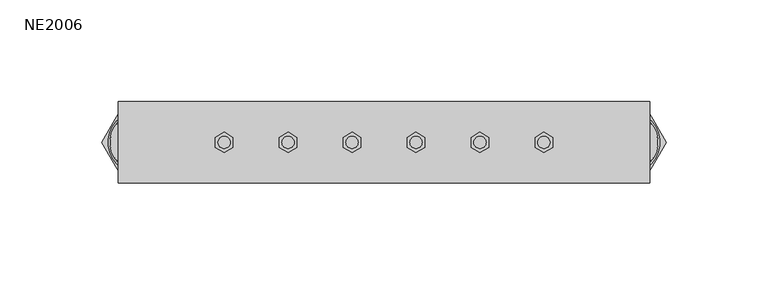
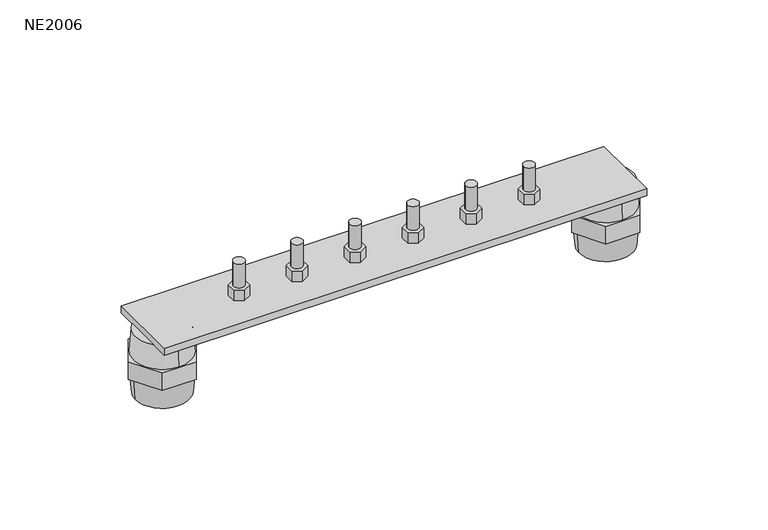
"""IFC4 building model written with IfcOpenShell, lengths in millimetres: proxy geometry, КНС_ШинаГлавнаяЗаземляющаяСИзоляторами_DKC : NE2006."""

from ifc_helpers import new_model, si_unit, point, frame, frame_2d, origin, place, context, project, spatial, polyline, circle_curve, trimmed, segment, composite_curve, outline, extrude, source, transform, mapped, element, save
from ifc_brep_helpers import plane_surface, revolved_surface, advanced_brep


def ne2006_d57b77ed(model_context):
    return source(origin(), model_context, "Body", "SolidModel", [
        extrude(outline(polyline([(82.830127, -2.5), (78.5, -5.0), (74.169873, -2.5), (74.169873, 2.5), (78.5, 5.0), (82.830127, 2.5), (82.830127, -2.5)])), frame((0.0, 0.0, 40.0), z_axis=(0.0, 0.0, 1.0), x_axis=(1.0, 0.0, 0.0)), (0.0, 0.0, 1.0), 6.0),
        extrude(outline(composite_curve([segment(trimmed(circle_curve(frame_2d((78.5, 0.0)), 3.0), [point((75.5, 0.0))], [point((81.5, 0.0))], False, "CARTESIAN"), True, "CONTINUOUS"), segment(trimmed(circle_curve(frame_2d((78.5, 0.0)), 3.0), [point((81.5, 0.0))], [point((75.5, 0.0))], False, "CARTESIAN"), True, "CONTINUOUS")], self_intersect=False)), frame((0.0, 0.0, 46.0), z_axis=(0.0, 0.0, 1.0), x_axis=(1.0, 0.0, 0.0)), (0.0, 0.0, 1.0), 14.0),
        extrude(outline(polyline([(51.430127, -2.5), (47.1, -5.0), (42.769873, -2.5), (42.769873, 2.5), (47.1, 5.0), (51.430127, 2.5), (51.430127, -2.5)])), frame((0.0, 0.0, 40.0), z_axis=(0.0, 0.0, 1.0), x_axis=(1.0, 0.0, 0.0)), (0.0, 0.0, 1.0), 6.0),
        extrude(outline(composite_curve([segment(trimmed(circle_curve(frame_2d((47.1, 0.0)), 3.0), [point((44.1, 0.0))], [point((50.1, 0.0))], False, "CARTESIAN"), True, "CONTINUOUS"), segment(trimmed(circle_curve(frame_2d((47.1, 0.0)), 3.0), [point((50.1, 0.0))], [point((44.1, 0.0))], False, "CARTESIAN"), True, "CONTINUOUS")], self_intersect=False)), frame((0.0, 0.0, 46.0), z_axis=(0.0, 0.0, 1.0), x_axis=(1.0, 0.0, 0.0)), (0.0, 0.0, 1.0), 14.0),
        extrude(outline(polyline([(20.030127, -2.5), (15.7, -5.0), (11.369873, -2.5), (11.369873, 2.5), (15.7, 5.0), (20.030127, 2.5), (20.030127, -2.5)])), frame((0.0, 0.0, 40.0), z_axis=(0.0, 0.0, 1.0), x_axis=(1.0, 0.0, 0.0)), (0.0, 0.0, 1.0), 6.0),
        extrude(outline(composite_curve([segment(trimmed(circle_curve(frame_2d((15.7, 0.0)), 3.0), [point((12.7, 0.0))], [point((18.7, 0.0))], False, "CARTESIAN"), True, "CONTINUOUS"), segment(trimmed(circle_curve(frame_2d((15.7, 0.0)), 3.0), [point((18.7, 0.0))], [point((12.7, 0.0))], False, "CARTESIAN"), True, "CONTINUOUS")], self_intersect=False)), frame((0.0, 0.0, 46.0), z_axis=(0.0, 0.0, 1.0), x_axis=(1.0, 0.0, 0.0)), (0.0, 0.0, 1.0), 14.0),
        extrude(outline(polyline([(-11.369873, -2.5), (-15.7, -5.0), (-20.030127, -2.5), (-20.030127, 2.5), (-15.7, 5.0), (-11.369873, 2.5), (-11.369873, -2.5)])), frame((0.0, 0.0, 40.0), z_axis=(0.0, 0.0, 1.0), x_axis=(1.0, 0.0, 0.0)), (0.0, 0.0, 1.0), 6.0),
        extrude(outline(composite_curve([segment(trimmed(circle_curve(frame_2d((-15.7, 0.0)), 3.0), [point((-18.7, 0.0))], [point((-12.7, 0.0))], False, "CARTESIAN"), True, "CONTINUOUS"), segment(trimmed(circle_curve(frame_2d((-15.7, 0.0)), 3.0), [point((-12.7, 0.0))], [point((-18.7, 0.0))], False, "CARTESIAN"), True, "CONTINUOUS")], self_intersect=False)), frame((0.0, 0.0, 46.0), z_axis=(0.0, 0.0, 1.0), x_axis=(1.0, 0.0, 0.0)), (0.0, 0.0, 1.0), 14.0),
        extrude(outline(polyline([(-42.769873, -2.5), (-47.1, -5.0), (-51.430127, -2.5), (-51.430127, 2.5), (-47.1, 5.0), (-42.769873, 2.5), (-42.769873, -2.5)])), frame((0.0, 0.0, 40.0), z_axis=(0.0, 0.0, 1.0), x_axis=(1.0, 0.0, 0.0)), (0.0, 0.0, 1.0), 6.0),
        extrude(outline(composite_curve([segment(trimmed(circle_curve(frame_2d((-47.1, 0.0)), 3.0), [point((-50.1, 0.0))], [point((-44.1, 0.0))], False, "CARTESIAN"), True, "CONTINUOUS"), segment(trimmed(circle_curve(frame_2d((-47.1, 0.0)), 3.0), [point((-44.1, 0.0))], [point((-50.1, 0.0))], False, "CARTESIAN"), True, "CONTINUOUS")], self_intersect=False)), frame((0.0, 0.0, 46.0), z_axis=(0.0, 0.0, 1.0), x_axis=(1.0, 0.0, 0.0)), (0.0, 0.0, 1.0), 14.0),
        extrude(outline(polyline([(-74.169873, -2.5), (-78.5, -5.0), (-82.830127, -2.5), (-82.830127, 2.5), (-78.5, 5.0), (-74.169873, 2.5), (-74.169873, -2.5)])), frame((0.0, 0.0, 40.0), z_axis=(0.0, 0.0, 1.0), x_axis=(1.0, 0.0, 0.0)), (0.0, 0.0, 1.0), 6.0),
        extrude(outline(composite_curve([segment(trimmed(circle_curve(frame_2d((-78.5, 0.0)), 3.0), [point((-81.5, 0.0))], [point((-75.5, 0.0))], False, "CARTESIAN"), True, "CONTINUOUS"), segment(trimmed(circle_curve(frame_2d((-78.5, 0.0)), 3.0), [point((-75.5, 0.0))], [point((-81.5, 0.0))], False, "CARTESIAN"), True, "CONTINUOUS")], self_intersect=False)), frame((0.0, 0.0, 46.0), z_axis=(0.0, 0.0, 1.0), x_axis=(1.0, 0.0, 0.0)), (0.0, 0.0, 1.0), 14.0),
        advanced_brep(
        [(120.0, 15.5, 23.0), (120.0, -15.5, 23.0), (120.0, 14.5, 36.0), (120.0, -14.5, 36.0)],
        [
            (0, 1, circle_curve(frame((120.0, 0.0, 23.0), z_axis=(0.0, 0.0, -1.0), x_axis=(0.0, 1.0, 0.0)), 15.5)),
            (1, 0, circle_curve(frame((120.0, 0.0, 23.0), z_axis=(0.0, 0.0, -1.0), x_axis=(0.0, -1.0, 0.0)), 15.5)),
            (2, 3, circle_curve(frame((120.0, 0.0, 36.0), z_axis=(0.0, 0.0, 1.0), x_axis=(0.0, -1.0, 0.0)), 14.5)),
            (3, 2, circle_curve(frame((120.0, 0.0, 36.0), z_axis=(0.0, 0.0, 1.0), x_axis=(0.0, 1.0, 0.0)), 14.5)),
            (2, 0),
            (1, 3),
        ],
        [
            plane_surface(frame((120.0, 0.0, 23.0), z_axis=(0.0, 0.0, -1.0), x_axis=(-1.0, 0.0, 0.0))),
            plane_surface(frame((120.0, 0.0, 36.0), z_axis=(0.0, 0.0, 1.0), x_axis=(-1.0, 0.0, 0.0))),
            revolved_surface(polyline([(120.0, 14.5, 36.0), (120.0, 15.5, 23.0)]), (120.0, 0.0, 224.5), (0.0, 0.0, -1.0)),
            revolved_surface(polyline([(120.0, -14.5, 36.0), (120.0, -15.5, 23.0)]), (120.0, 0.0, 224.5), (0.0, 0.0, -1.0)),
        ],
        [
            (0, [[1, 2]]),
            (1, [[3, 4]]),
            (2, [[-3, 5, -2, 6]]),
            (3, [[-4, -6, -1, -5]]),
        ],
    ),
        advanced_brep(
        [(104.5, 0.0, 13.0), (135.5, 0.0, 13.0), (105.5, 0.0, 0.0), (134.5, 0.0, 0.0)],
        [
            (0, 1, circle_curve(frame((120.0, 0.0, 13.0), z_axis=(0.0, 0.0, 1.0), x_axis=(-1.0, 0.0, 0.0)), 15.5)),
            (1, 0, circle_curve(frame((120.0, 0.0, 13.0), z_axis=(0.0, 0.0, 1.0), x_axis=(1.0, 0.0, 0.0)), 15.5)),
            (2, 3, circle_curve(frame((120.0, 0.0, 0.0), z_axis=(0.0, 0.0, -1.0), x_axis=(1.0, 0.0, 0.0)), 14.5)),
            (3, 2, circle_curve(frame((120.0, 0.0, 0.0), z_axis=(0.0, 0.0, -1.0), x_axis=(-1.0, 0.0, 0.0)), 14.5)),
            (3, 1),
            (0, 2),
        ],
        [
            plane_surface(frame((120.0, 0.0, 13.0), z_axis=(0.0, 0.0, 1.0), x_axis=(0.0, -1.0, 0.0))),
            plane_surface(frame((120.0, 0.0, 0.0), z_axis=(0.0, 0.0, -1.0), x_axis=(0.0, -1.0, 0.0))),
            revolved_surface(polyline([(134.5, 0.0, 0.0), (135.5, 0.0, 13.0)]), (120.0, 0.0, -188.5), (0.0, 0.0, 1.0)),
            revolved_surface(polyline([(105.5, 0.0, 0.0), (104.5, 0.0, 13.0)]), (120.0, 0.0, -188.5), (0.0, 0.0, 1.0)),
        ],
        [
            (0, [[1, 2]]),
            (1, [[3, 4]]),
            (2, [[-4, 5, -1, 6]]),
            (3, [[-3, -6, -2, -5]]),
        ],
    ),
        advanced_brep(
        [(-120.0, 15.5, 23.0), (-120.0, -15.5, 23.0), (-120.0, 14.5, 36.0), (-120.0, -14.5, 36.0)],
        [
            (0, 1, circle_curve(frame((-120.0, 0.0, 23.0), z_axis=(0.0, 0.0, -1.0), x_axis=(0.0, 1.0, 0.0)), 15.5)),
            (1, 0, circle_curve(frame((-120.0, 0.0, 23.0), z_axis=(0.0, 0.0, -1.0), x_axis=(0.0, -1.0, 0.0)), 15.5)),
            (2, 3, circle_curve(frame((-120.0, 0.0, 36.0), z_axis=(0.0, 0.0, 1.0), x_axis=(0.0, -1.0, 0.0)), 14.5)),
            (3, 2, circle_curve(frame((-120.0, 0.0, 36.0), z_axis=(0.0, 0.0, 1.0), x_axis=(0.0, 1.0, 0.0)), 14.5)),
            (2, 0),
            (1, 3),
        ],
        [
            plane_surface(frame((-120.0, 0.0, 23.0), z_axis=(0.0, 0.0, -1.0), x_axis=(-1.0, 0.0, 0.0))),
            plane_surface(frame((-120.0, 0.0, 36.0), z_axis=(0.0, 0.0, 1.0), x_axis=(-1.0, 0.0, 0.0))),
            revolved_surface(polyline([(-120.0, 14.5, 36.0), (-120.0, 15.5, 23.0)]), (-120.0, 0.0, 224.5), (0.0, 0.0, -1.0)),
            revolved_surface(polyline([(-120.0, -14.5, 36.0), (-120.0, -15.5, 23.0)]), (-120.0, 0.0, 224.5), (0.0, 0.0, -1.0)),
        ],
        [
            (0, [[1, 2]]),
            (1, [[3, 4]]),
            (2, [[-3, 5, -2, 6]]),
            (3, [[-4, -6, -1, -5]]),
        ],
    ),
        advanced_brep(
        [(-135.5, 0.0, 13.0), (-104.5, 0.0, 13.0), (-134.5, 0.0, 0.0), (-105.5, 0.0, 0.0)],
        [
            (0, 1, circle_curve(frame((-120.0, 0.0, 13.0), z_axis=(0.0, 0.0, 1.0), x_axis=(-1.0, 0.0, 0.0)), 15.5)),
            (1, 0, circle_curve(frame((-120.0, 0.0, 13.0), z_axis=(0.0, 0.0, 1.0), x_axis=(1.0, 0.0, 0.0)), 15.5)),
            (2, 3, circle_curve(frame((-120.0, 0.0, 0.0), z_axis=(0.0, 0.0, -1.0), x_axis=(1.0, 0.0, 0.0)), 14.5)),
            (3, 2, circle_curve(frame((-120.0, 0.0, 0.0), z_axis=(0.0, 0.0, -1.0), x_axis=(-1.0, 0.0, 0.0)), 14.5)),
            (3, 1),
            (0, 2),
        ],
        [
            plane_surface(frame((-120.0, 0.0, 13.0), z_axis=(0.0, 0.0, 1.0), x_axis=(0.0, -1.0, 0.0))),
            plane_surface(frame((-120.0, 0.0, 0.0), z_axis=(0.0, 0.0, -1.0), x_axis=(0.0, -1.0, 0.0))),
            revolved_surface(polyline([(-105.5, 0.0, 0.0), (-104.5, 0.0, 13.0)]), (-120.0, 0.0, -188.5), (0.0, 0.0, 1.0)),
            revolved_surface(polyline([(-134.5, 0.0, 0.0), (-135.5, 0.0, 13.0)]), (-120.0, 0.0, -188.5), (0.0, 0.0, 1.0)),
        ],
        [
            (0, [[1, 2]]),
            (1, [[3, 4]]),
            (2, [[-4, 5, -1, 6]]),
            (3, [[-3, -6, -2, -5]]),
        ],
    ),
        extrude(outline(polyline([(130.5, -20.0), (-130.5, -20.0), (-130.5, 20.0), (130.5, 20.0), (130.5, -20.0)])), frame((0.0, 0.0, 36.0), z_axis=(0.0, 0.0, 1.0), x_axis=(1.0, 0.0, 0.0)), (0.0, 0.0, 1.0), 4.0),
        extrude(outline(polyline([(110.75, -16.02147), (101.5, 0.0), (110.75, 16.02147), (129.25, 16.02147), (138.5, 0.0), (129.25, -16.02147), (110.75, -16.02147)])), frame((0.0, 0.0, 13.0), z_axis=(0.0, 0.0, 1.0), x_axis=(1.0, 0.0, 0.0)), (0.0, 0.0, 1.0), 10.0),
        extrude(outline(polyline([(-129.25, -16.02147), (-138.5, 0.0), (-129.25, 16.02147), (-110.75, 16.02147), (-101.5, 0.0), (-110.75, -16.02147), (-129.25, -16.02147)])), frame((0.0, 0.0, 13.0), z_axis=(0.0, 0.0, 1.0), x_axis=(1.0, 0.0, 0.0)), (0.0, 0.0, 1.0), 10.0),
    ])


if __name__ == "__main__":
    model = new_model("IFC4")
    model_context = context("Model", 3, world=origin())
    ifc_project = project(units=[si_unit("LENGTHUNIT", "METRE", prefix="MILLI")], contexts=[model_context])
    site = spatial("IfcSite", under=ifc_project)
    building = spatial("IfcBuilding", under=site)
    placement = place(None, origin())
    ne2006_shape = ne2006_d57b77ed(model_context)
    element("IfcBuildingElementProxy", 1, Name="КНС_ШинаГлавнаяЗаземляющаяСИзоляторами_DKC : NE2006", ObjectType="КНС_ШинаГлавнаяЗаземляющаяСИзоляторами_DKC : NE2006", at=placement, inside=building, context=model_context, shape_type="MappedRepresentation", body=[
        mapped(ne2006_shape, transform((0.0, 0.0, 0.0), x_axis=(1.0, 0.0, 0.0), y_axis=(0.0, 1.0, 0.0), z_axis=(0.0, 0.0, 1.0))),
    ])
    save(model, "model.ifc")
